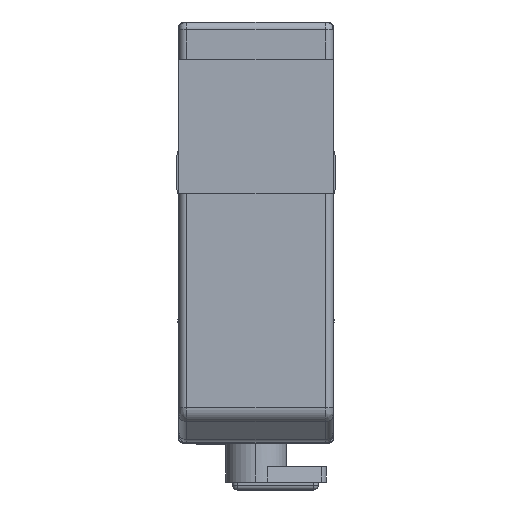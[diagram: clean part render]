
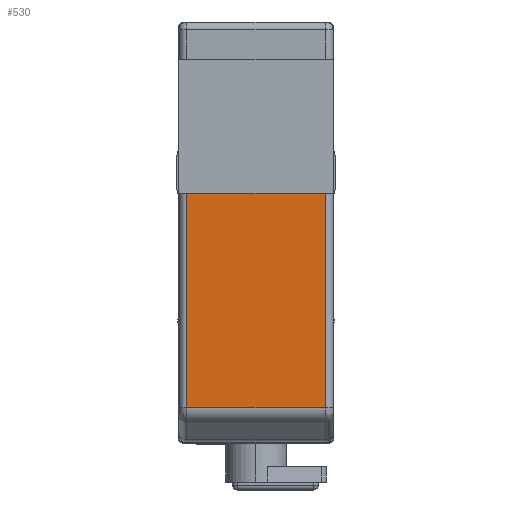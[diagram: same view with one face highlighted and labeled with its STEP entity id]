
A CAD part, top view. The second image highlights one B-rep face of the part: STEP entity #530.
In plain terms, the highlighted planar face has unit normal (0, 0, 1).
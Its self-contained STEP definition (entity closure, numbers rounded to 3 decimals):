
#530=ADVANCED_FACE('',(#2922),#2921,.F.);
#2921=PLANE('',#4738);
#2922=FACE_OUTER_BOUND('',#4739,.T.);
#4735=CARTESIAN_POINT('',(5.34,-26.133,27.4));
#4736=DIRECTION('',(0.,0.,-1.));
#4737=DIRECTION('',(-1.,0.,0.));
#4738=AXIS2_PLACEMENT_3D('',#4735,#4736,#4737);
#4739=EDGE_LOOP('',(#6187,#6188,#6189,#6190));
#6187=ORIENTED_EDGE('',*,*,#6819,.F.);
#6188=ORIENTED_EDGE('',*,*,#6876,.T.);
#6189=ORIENTED_EDGE('',*,*,#6964,.T.);
#6190=ORIENTED_EDGE('',*,*,#6899,.T.);
#6819=EDGE_CURVE('',#10017,#10024,#10025,.T.);
#6876=EDGE_CURVE('',#10017,#10406,#10413,.T.);
#6899=EDGE_CURVE('',#10544,#10024,#10563,.T.);
#6964=EDGE_CURVE('',#10406,#10544,#10989,.T.);
#10017=VERTEX_POINT('',#13304);
#10024=VERTEX_POINT('',#13309);
#10025=LINE('',#13310,#13311);
#10406=VERTEX_POINT('',#13548);
#10413=LINE('',#13553,#13554);
#10544=VERTEX_POINT('',#13636);
#10563=LINE('',#13649,#13650);
#10989=LINE('',#13894,#13895);
#13304=CARTESIAN_POINT('',(-4.45,-11.,27.4));
#13309=CARTESIAN_POINT('',(4.45,-11.,27.4));
#13310=CARTESIAN_POINT('',(-4.45,-11.,27.4));
#13311=VECTOR('',#13312,8.9);
#13312=DIRECTION('',(1.,0.,0.));
#13548=CARTESIAN_POINT('',(-4.45,-24.758,27.4));
#13553=CARTESIAN_POINT('',(-4.45,-11.,27.4));
#13554=VECTOR('',#13555,13.758);
#13555=DIRECTION('',(0.,-1.,0.));
#13636=CARTESIAN_POINT('',(4.45,-24.758,27.4));
#13649=CARTESIAN_POINT('',(4.45,-24.758,27.4));
#13650=VECTOR('',#13651,13.758);
#13651=DIRECTION('',(0.,1.,0.));
#13894=CARTESIAN_POINT('',(-4.45,-24.758,27.4));
#13895=VECTOR('',#13896,8.9);
#13896=DIRECTION('',(1.,0.,0.));
